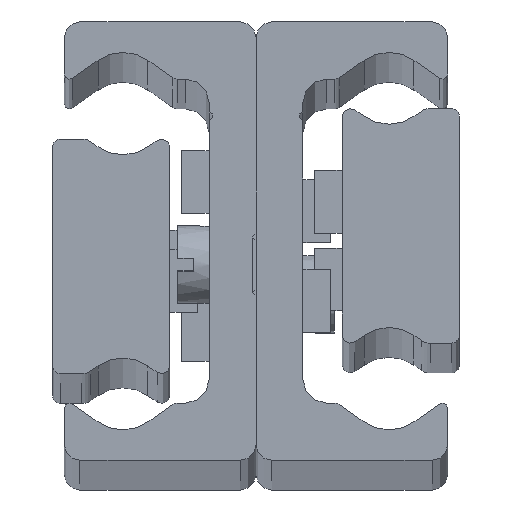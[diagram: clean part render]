
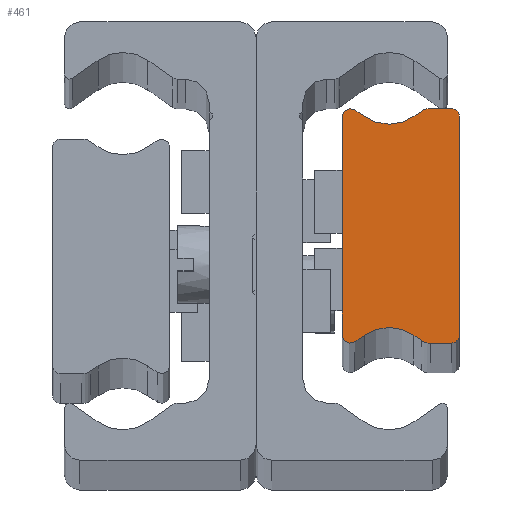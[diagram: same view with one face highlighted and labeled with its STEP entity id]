
A CAD part, top view. The second image highlights one B-rep face of the part: STEP entity #461.
In plain terms, the highlighted planar face has unit normal (0, 0, 1) as drawn and (0, 0, -1) by its records, which use the part's own axes.
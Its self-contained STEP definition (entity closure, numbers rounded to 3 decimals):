
#461 = ADVANCED_FACE( '', ( #1058 ), #1059, .F. );
#1058 = FACE_OUTER_BOUND( '', #1784, .T. );
#1059 = PLANE( '', #1785 );
#1784 = EDGE_LOOP( '', ( #2883, #2884, #2885, #2886, #2887, #2888, #2889, #2890, #2891, #2892, #2893, #2894, #2895, #2896, #2897, #2898 ) );
#1785 = AXIS2_PLACEMENT_3D( '', #2899, #2900, #2901 );
#2883 = ORIENTED_EDGE( '', *, *, #3995, .F. );
#2884 = ORIENTED_EDGE( '', *, *, #4005, .F. );
#2885 = ORIENTED_EDGE( '', *, *, #3904, .F. );
#2886 = ORIENTED_EDGE( '', *, *, #4006, .F. );
#2887 = ORIENTED_EDGE( '', *, *, #3668, .F. );
#2888 = ORIENTED_EDGE( '', *, *, #4007, .T. );
#2889 = ORIENTED_EDGE( '', *, *, #3865, .F. );
#2890 = ORIENTED_EDGE( '', *, *, #3687, .F. );
#2891 = ORIENTED_EDGE( '', *, *, #4008, .F. );
#2892 = ORIENTED_EDGE( '', *, *, #3878, .F. );
#2893 = ORIENTED_EDGE( '', *, *, #3894, .F. );
#2894 = ORIENTED_EDGE( '', *, *, #4009, .T. );
#2895 = ORIENTED_EDGE( '', *, *, #3703, .F. );
#2896 = ORIENTED_EDGE( '', *, *, #4010, .F. );
#2897 = ORIENTED_EDGE( '', *, *, #4011, .F. );
#2898 = ORIENTED_EDGE( '', *, *, #4012, .F. );
#2899 = CARTESIAN_POINT( '', ( 0.5, -7., -1090. ) );
#2900 = DIRECTION( '', ( 0., 0., 1. ) );
#2901 = DIRECTION( '', ( 1., 0., 0. ) );
#3668 = EDGE_CURVE( '', #4252, #4254, #4255, .T. );
#3687 = EDGE_CURVE( '', #4285, #4287, #4288, .T. );
#3703 = EDGE_CURVE( '', #4313, #4315, #4316, .T. );
#3865 = EDGE_CURVE( '', #4287, #4586, #4587, .T. );
#3878 = EDGE_CURVE( '', #4605, #4607, #4608, .T. );
#3894 = EDGE_CURVE( '', #4628, #4605, #4630, .T. );
#3904 = EDGE_CURVE( '', #4643, #4645, #4646, .T. );
#3995 = EDGE_CURVE( '', #4788, #4790, #4791, .T. );
#4005 = EDGE_CURVE( '', #4645, #4788, #4803, .T. );
#4006 = EDGE_CURVE( '', #4254, #4643, #4804, .T. );
#4007 = EDGE_CURVE( '', #4252, #4586, #4805, .T. );
#4008 = EDGE_CURVE( '', #4607, #4285, #4806, .T. );
#4009 = EDGE_CURVE( '', #4628, #4315, #4807, .T. );
#4010 = EDGE_CURVE( '', #4808, #4313, #4809, .T. );
#4011 = EDGE_CURVE( '', #4810, #4808, #4811, .T. );
#4012 = EDGE_CURVE( '', #4790, #4810, #4812, .T. );
#4252 = VERTEX_POINT( '', #5112 );
#4254 = VERTEX_POINT( '', #5115 );
#4255 = LINE( '', #5116, #5117 );
#4285 = VERTEX_POINT( '', #5152 );
#4287 = VERTEX_POINT( '', #5155 );
#4288 = CIRCLE( '', #5156, 0.523 );
#4313 = VERTEX_POINT( '', #5187 );
#4315 = VERTEX_POINT( '', #5190 );
#4316 = LINE( '', #5191, #5192 );
#4586 = VERTEX_POINT( '', #5525 );
#4587 = LINE( '', #5526, #5527 );
#4605 = VERTEX_POINT( '', #5548 );
#4607 = VERTEX_POINT( '', #5551 );
#4608 = CIRCLE( '', #5552, 0.523 );
#4628 = VERTEX_POINT( '', #5577 );
#4630 = LINE( '', #5580, #5581 );
#4643 = VERTEX_POINT( '', #5596 );
#4645 = VERTEX_POINT( '', #5599 );
#4646 = LINE( '', #5600, #5601 );
#4788 = VERTEX_POINT( '', #5778 );
#4790 = VERTEX_POINT( '', #5781 );
#4791 = LINE( '', #5782, #5783 );
#4803 = CIRCLE( '', #5798, 0.5 );
#4804 = CIRCLE( '', #5799, 1. );
#4805 = CIRCLE( '', #5800, 2.778 );
#4806 = LINE( '', #5801, #5802 );
#4807 = CIRCLE( '', #5803, 2.778 );
#4808 = VERTEX_POINT( '', #5804 );
#4809 = CIRCLE( '', #5805, 1. );
#4810 = VERTEX_POINT( '', #5806 );
#4811 = LINE( '', #5807, #5808 );
#4812 = CIRCLE( '', #5809, 0.5 );
#5112 = CARTESIAN_POINT( '', ( 2.907, 6.997, -1090. ) );
#5115 = CARTESIAN_POINT( '', ( 2.446, 7.319, -1090. ) );
#5116 = CARTESIAN_POINT( '', ( 2.907, 6.997, -1090. ) );
#5117 = VECTOR( '', #6138, 1000. );
#5152 = CARTESIAN_POINT( '', ( 7.5, 6.977, -1090. ) );
#5155 = CARTESIAN_POINT( '', ( 6.677, 7.405, -1090. ) );
#5156 = AXIS2_PLACEMENT_3D( '', #6166, #6167, #6168 );
#5187 = CARTESIAN_POINT( '', ( 2.446, -7.319, -1090. ) );
#5190 = CARTESIAN_POINT( '', ( 2.907, -6.997, -1090. ) );
#5191 = CARTESIAN_POINT( '', ( 2.446, -7.319, -1090. ) );
#5192 = VECTOR( '', #6188, 1000. );
#5525 = CARTESIAN_POINT( '', ( 6.093, 6.997, -1090. ) );
#5526 = CARTESIAN_POINT( '', ( 6.677, 7.405, -1090. ) );
#5527 = VECTOR( '', #6435, 1000. );
#5548 = CARTESIAN_POINT( '', ( 6.677, -7.405, -1090. ) );
#5551 = CARTESIAN_POINT( '', ( 7.5, -6.977, -1090. ) );
#5552 = AXIS2_PLACEMENT_3D( '', #6452, #6453, #6454 );
#5577 = CARTESIAN_POINT( '', ( 6.093, -6.997, -1090. ) );
#5580 = CARTESIAN_POINT( '', ( 6.093, -6.997, -1090. ) );
#5581 = VECTOR( '', #6476, 1000. );
#5596 = CARTESIAN_POINT( '', ( 1.873, 7.5, -1090. ) );
#5599 = CARTESIAN_POINT( '', ( 0.5, 7.5, -1090. ) );
#5600 = CARTESIAN_POINT( '', ( 1.873, 7.5, -1090. ) );
#5601 = VECTOR( '', #6486, 1000. );
#5778 = CARTESIAN_POINT( '', ( 0., 7., -1090. ) );
#5781 = CARTESIAN_POINT( '', ( 0., -7., -1090. ) );
#5782 = CARTESIAN_POINT( '', ( 0., 7., -1090. ) );
#5783 = VECTOR( '', #6628, 1000. );
#5798 = AXIS2_PLACEMENT_3D( '', #6635, #6636, #6637 );
#5799 = AXIS2_PLACEMENT_3D( '', #6638, #6639, #6640 );
#5800 = AXIS2_PLACEMENT_3D( '', #6641, #6642, #6643 );
#5801 = CARTESIAN_POINT( '', ( 7.5, -6.977, -1090. ) );
#5802 = VECTOR( '', #6644, 1000. );
#5803 = AXIS2_PLACEMENT_3D( '', #6645, #6646, #6647 );
#5804 = CARTESIAN_POINT( '', ( 1.873, -7.5, -1090. ) );
#5805 = AXIS2_PLACEMENT_3D( '', #6648, #6649, #6650 );
#5806 = CARTESIAN_POINT( '', ( 0.5, -7.5, -1090. ) );
#5807 = CARTESIAN_POINT( '', ( 0.5, -7.5, -1090. ) );
#5808 = VECTOR( '', #6651, 1000. );
#5809 = AXIS2_PLACEMENT_3D( '', #6652, #6653, #6654 );
#6138 = DIRECTION( '', ( -0.819, 0.574, 0. ) );
#6166 = CARTESIAN_POINT( '', ( 6.977, 6.977, -1090. ) );
#6167 = DIRECTION( '', ( 0., 0., 1. ) );
#6168 = DIRECTION( '', ( 1., 0., 0. ) );
#6188 = DIRECTION( '', ( 0.819, 0.574, 0. ) );
#6435 = DIRECTION( '', ( -0.819, -0.574, 0. ) );
#6452 = CARTESIAN_POINT( '', ( 6.977, -6.977, -1090. ) );
#6453 = DIRECTION( '', ( 0., 0., 1. ) );
#6454 = DIRECTION( '', ( 1., 0., 0. ) );
#6476 = DIRECTION( '', ( 0.819, -0.574, 0. ) );
#6486 = DIRECTION( '', ( -1., 0., 0. ) );
#6628 = DIRECTION( '', ( 0., -1., 0. ) );
#6635 = CARTESIAN_POINT( '', ( 0.5, 7., -1090. ) );
#6636 = DIRECTION( '', ( 0., 0., 1. ) );
#6637 = DIRECTION( '', ( 1., 0., 0. ) );
#6638 = CARTESIAN_POINT( '', ( 1.873, 6.5, -1090. ) );
#6639 = DIRECTION( '', ( 0., 0., 1. ) );
#6640 = DIRECTION( '', ( 1., 0., 0. ) );
#6641 = CARTESIAN_POINT( '', ( 4.5, 9.272, -1090. ) );
#6642 = DIRECTION( '', ( 0., 0., 1. ) );
#6643 = DIRECTION( '', ( 1., 0., 0. ) );
#6644 = DIRECTION( '', ( 0., 1., 0. ) );
#6645 = CARTESIAN_POINT( '', ( 4.5, -9.272, -1090. ) );
#6646 = DIRECTION( '', ( 0., 0., 1. ) );
#6647 = DIRECTION( '', ( 1., 0., 0. ) );
#6648 = CARTESIAN_POINT( '', ( 1.873, -6.5, -1090. ) );
#6649 = DIRECTION( '', ( 0., 0., 1. ) );
#6650 = DIRECTION( '', ( 1., 0., 0. ) );
#6651 = DIRECTION( '', ( 1., 0., 0. ) );
#6652 = CARTESIAN_POINT( '', ( 0.5, -7., -1090. ) );
#6653 = DIRECTION( '', ( 0., 0., 1. ) );
#6654 = DIRECTION( '', ( 1., 0., 0. ) );
